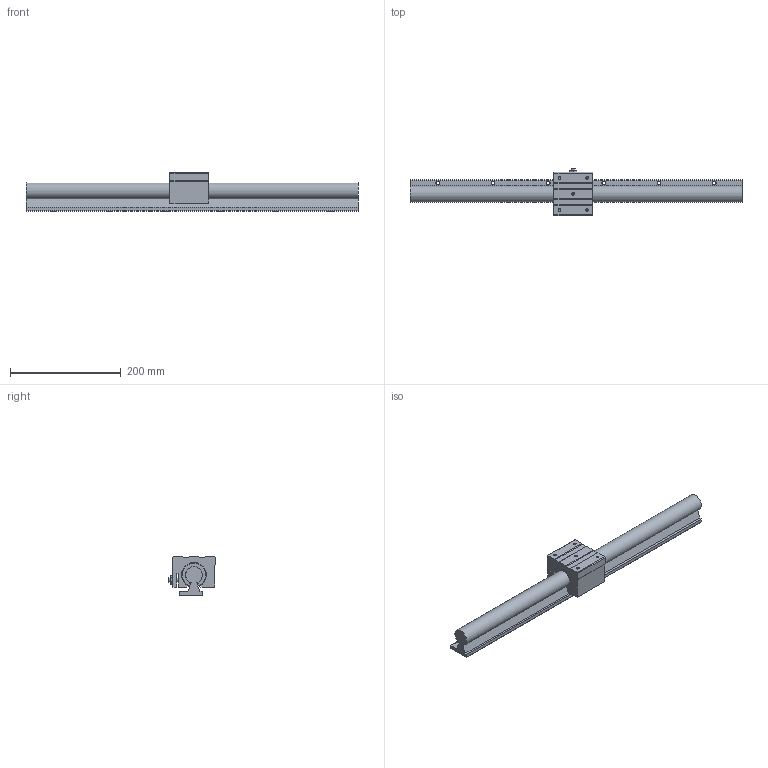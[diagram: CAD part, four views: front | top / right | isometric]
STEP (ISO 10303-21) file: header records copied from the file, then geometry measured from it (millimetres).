
FILE_DESCRIPTION((''),'2;1');
FILE_NAME('D:\製品 (図面)\カタログ用3D\リニアガイド関連\STEP形式\GTA(W)\GTA30.stp','2010-06-08T09:17:28',('Tsuchiya'),(''),'Autodesk Inventor 10','Autodesk Inventor 10','');
FILE_SCHEMA(('AUTOMOTIVE_DESIGN { 1 0 10303 214 1 1 1 1 }'));
Length unit declared in the file: millimetre
Products named in the file (3): GTA30; GTA301; GTA302
Assembly tree (2 placements, depth 2):
  GTA30
    GTA301
    GTA302
Bounding box: 600 x 85 x 70 mm (x, y, z)
Volume: 963694.7 mm3; surface area: 157651 mm2
Topology: 2 solids, 2 shells, 192 faces, 499 edges, 322 vertices
Faces by surface type: plane 114, cylinder 39, cone 21, bspline 10, torus 8
Full cylindrical faces by diameter (mm): 6.5 x6, 8 x2, 10 x6, 10.4 x6
Entity records: 5574 total; most frequent: CARTESIAN_POINT 1264, ORIENTED_EDGE 864, DIRECTION 839, EDGE_CURVE 432, VERTEX_POINT 299, AXIS2_PLACEMENT_3D 296, EDGE_LOOP 265, VECTOR 247
